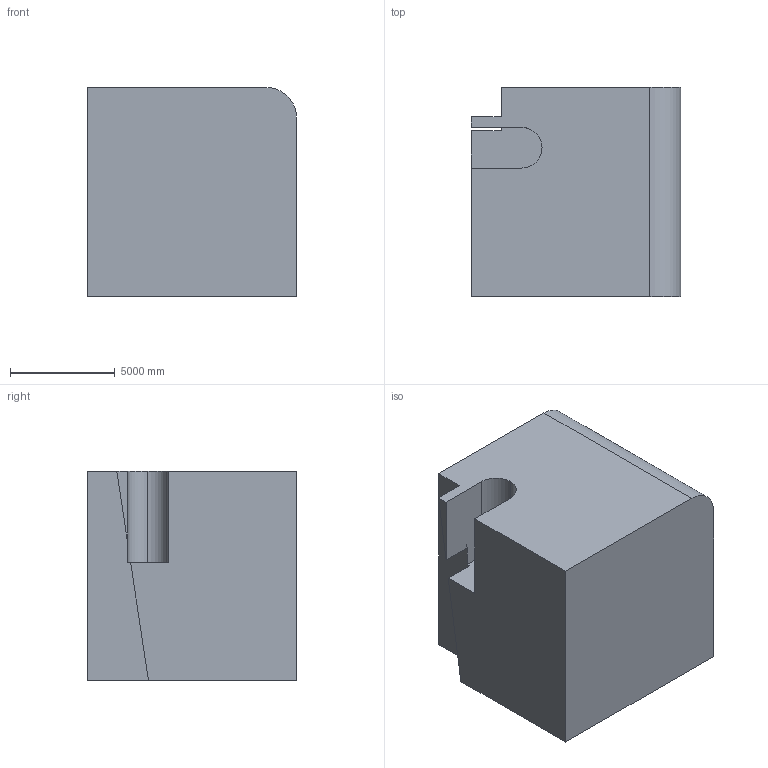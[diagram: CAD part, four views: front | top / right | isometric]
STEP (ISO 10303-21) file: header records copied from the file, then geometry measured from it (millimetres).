
FILE_DESCRIPTION (( 'STEP AP203' ), '1' );
FILE_NAME ('67.STEP', '2022-08-31T11:22:44', ( 'user' ), ( '' ), 'SwSTEP 2.0', 'SolidWorks 2021', '' );
FILE_SCHEMA (( 'CONFIG_CONTROL_DESIGN' ));
Length unit declared in the file: centimetre
Products named in the file (1): 67
Bounding box: 10000 x 10000 x 10000 mm (x, y, z)
Volume: 924308258611.5 mm3; surface area: 635949754.3 mm2
Topology: 1 solids, 1 shells, 19 faces, 48 edges, 32 vertices
Faces by surface type: plane 14, cylinder 5
Entity records: 649 total; most frequent: CARTESIAN_POINT 100, DIRECTION 98, ORIENTED_EDGE 96, EDGE_CURVE 48, VECTOR 38, LINE 38, VERTEX_POINT 32, AXIS2_PLACEMENT_3D 30
